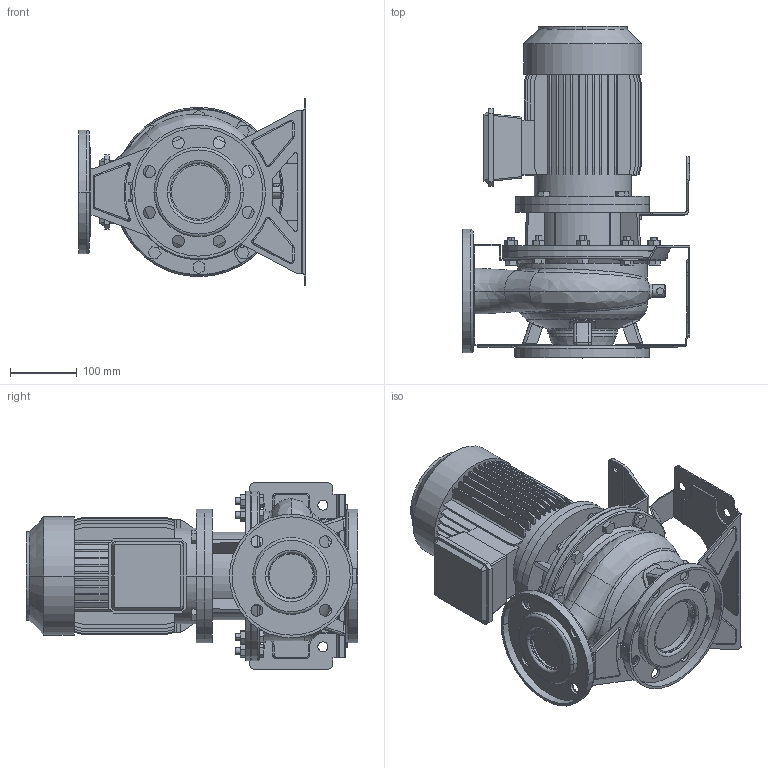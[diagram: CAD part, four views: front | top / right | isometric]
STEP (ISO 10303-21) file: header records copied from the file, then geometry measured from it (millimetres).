
FILE_DESCRIPTION((''),'2;1');
FILE_NAME('3S4_65-125_1_1_IE3_ASM','2016-09-24T',('rosa'),('"Ebara Pumps Europe +39.444.706811"'),'PRO/ENGINEER BY PARAMETRIC TECHNOLOGY CORPORATION, 2012130','PRO/ENGINEER BY PARAMETRIC TECHNOLOGY CORPORATION, 2012130','');
FILE_SCHEMA(('AUTOMOTIVE_DESIGN { 1 0 10303 214 1 1 1 1 }'));
Length unit declared in the file: millimetre
Products named in the file (11): MOTORE_90_1_1-1_5_KW_4POLI_B5; SUPPORTO_3S_190_90; SOSTEGNO_3S_72020; CORPO_65-125_AF0; ASP_65-125; FLANGIA_DIN_80_8_FORI; MAND_65-125; FLANGIA_DIN_65; BASE_3M_65-125; CORPO_SALDATO_65-125_ASM; 3S4_65-125_1_1_IE3_ASM
Assembly tree (10 placements, depth 3):
  3S4_65-125_1_1_IE3_ASM
    MOTORE_90_1_1-1_5_KW_4POLI_B5
    SUPPORTO_3S_190_90
    SOSTEGNO_3S_72020
    CORPO_SALDATO_65-125_ASM
      CORPO_65-125_AF0
      ASP_65-125
      FLANGIA_DIN_80_8_FORI
      MAND_65-125
      FLANGIA_DIN_65
      BASE_3M_65-125
Bounding box: 340 x 497 x 280 mm (x, y, z)
Volume: 11431503.6 mm3; surface area: 1304599.3 mm2
Topology: 12 solids, 12 shells, 1127 faces, 2908 edges, 1906 vertices
Faces by surface type: plane 694, cylinder 304, torus 54, bspline 33, cone 28, sphere 14
Entity records: 49782 total; most frequent: CARTESIAN_POINT 11043, DIRECTION 5907, ORIENTED_EDGE 5816, EDGE_CURVE 2908, PRESENTATION_STYLE_ASSIGNMENT 2779, STYLED_ITEM 2779, CURVE_STYLE 2768, AXIS2_PLACEMENT_3D 2005
